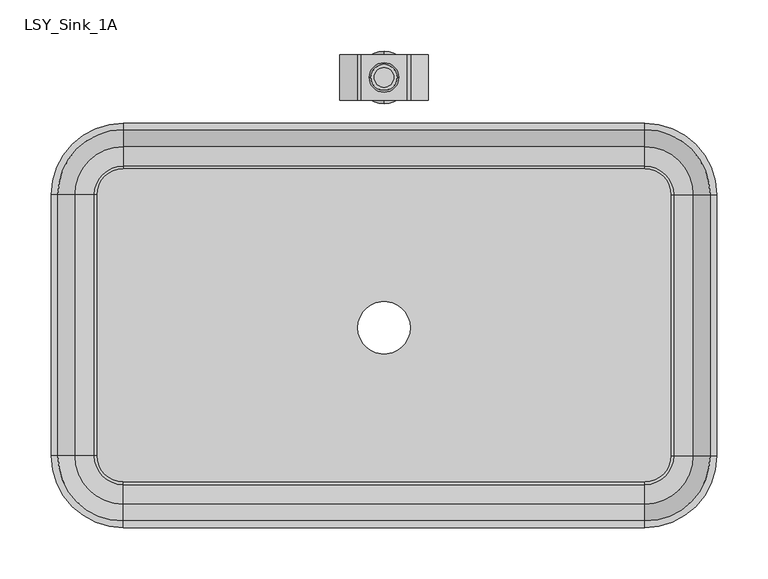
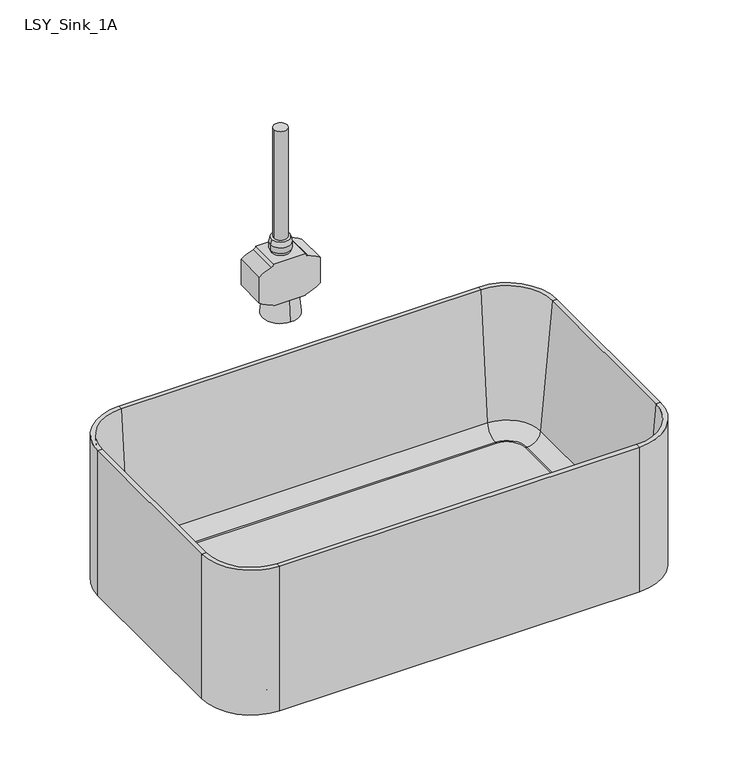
"""IFC4 building model written with IfcOpenShell, lengths in millimetres: flow terminal geometry."""

from ifc_helpers import new_model, si_unit, point, frame, frame_2d, origin, place, context, project, spatial, polyline, circle_curve, ellipse_curve, trimmed, segment, composite_curve, outline, extrude, source, transform, mapped, element, save
from ifc_brep_helpers import plane_surface, cylinder_surface, revolved_surface, advanced_brep


def lsy_sink_1a_065a4558(model_context):
    return source(origin(), model_context, "Body", "SolidModel", [
        advanced_brep(
        [(29.9767406, 145.2204011, 1036.6375), (1.4017406, 145.2204011, 1036.6375), (1.4017406, 145.2204011, 1044.575), (29.9767406, 145.2204011, 1044.575), (28.3892406, 145.2204011, 1052.5125), (2.9892406, 145.2204011, 1052.5125)],
        [
            (0, 1, circle_curve(frame((15.6892406, 145.2204011, 1036.6375), z_axis=(0.0, 0.0, -1.0), x_axis=(-1.0, 0.0, 0.0)), 14.2875)),
            (1, 0, circle_curve(frame((15.6892406, 145.2204011, 1036.6375), z_axis=(0.0, 0.0, -1.0), x_axis=(-1.0, 0.0, 0.0)), 14.2875)),
            (1, 2),
            (2, 3, circle_curve(frame((15.6892406, 145.2204011, 1044.575), z_axis=(0.0, 0.0, -1.0), x_axis=(-1.0, 0.0, 0.0)), 14.2875)),
            (3, 0),
            (3, 2, circle_curve(frame((15.6892406, 145.2204011, 1044.575), z_axis=(0.0, 0.0, -1.0), x_axis=(-1.0, 0.0, 0.0)), 14.2875)),
            (4, 5, circle_curve(frame((15.6892406, 145.2204011, 1052.5125), z_axis=(0.0, 0.0, 1.0), x_axis=(1.0, 0.0, 0.0)), 12.7)),
            (5, 4, circle_curve(frame((15.6892406, 145.2204011, 1052.5125), z_axis=(0.0, 0.0, 1.0), x_axis=(-1.0, 0.0, 0.0)), 12.7)),
            (4, 3),
            (2, 5),
        ],
        [
            plane_surface(frame((1.4017406, 145.2204011, 1036.6375), z_axis=(0.0, 0.0, -1.0), x_axis=(0.0, 1.0, 0.0))),
            cylinder_surface(frame((15.6892406, 145.2204011, 1036.6375), z_axis=(0.0, 0.0, 1.0), x_axis=(-1.0, 0.0, 0.0)), 14.2875),
            plane_surface(frame((15.6892406, 145.2204011, 1052.5125), z_axis=(0.0, 0.0, 1.0), x_axis=(0.0, 1.0, 0.0))),
            revolved_surface(polyline([(28.3892406, 145.2204011, 1052.5125), (29.9767406, 145.2204011, 1044.575)]), (15.6892406, 145.2204011, 1116.0125), (0.0, 0.0, -1.0)),
            revolved_surface(polyline([(2.9892406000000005, 145.2204011, 1052.5125), (1.4017406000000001, 145.2204011, 1044.575)]), (15.6892406, 145.2204011, 1116.0125), (0.0, 0.0, -1.0)),
        ],
        [
            (0, [[1, 2]]),
            (1, [[-2, 3, 4, 5]]),
            (1, [[-1, -5, 6, -3]]),
            (2, [[7, 8]]),
            (3, [[-7, 9, -4, 10]]),
            (4, [[-8, -10, -6, -9]]),
        ],
    ),
        extrude(outline(composite_curve([segment(trimmed(circle_curve(frame_2d((1032.4850081, -11.5210533)), 5.0159468), [point((1031.875, -6.5423374))], [point((1027.6006878, -10.3795029))], True, "CARTESIAN"), True, "CONTINUOUS"), segment(trimmed(circle_curve(frame_2d((988.3820284, -1.2134213)), 40.2755546), [point((1027.6006878, -10.3795029))], [point((1019.175, -27.1732594))], False, "CARTESIAN"), True, "CONTINUOUS"), segment(polyline([(1019.175, -27.1732594), (981.075, -27.1732594)]), True, "CONTINUOUS"), segment(trimmed(circle_curve(frame_2d((1011.8679716, -1.2134213)), 40.2755546), [point((981.075, -27.1732594))], [point((972.6493122, -10.3795029))], False, "CARTESIAN"), True, "CONTINUOUS"), segment(trimmed(circle_curve(frame_2d((966.5200388, -11.8120204)), 6.2944498), [point((972.6493122, -10.3795029))], [point((969.9625, -6.5423374))], True, "CARTESIAN"), True, "CONTINUOUS"), segment(polyline([(969.9625, -6.5423374), (969.9625, 37.9208185)]), True, "CONTINUOUS"), segment(trimmed(circle_curve(frame_2d((966.5200388, 43.1905016)), 6.2944498), [point((969.9625, 37.9208185))], [point((972.6493122, 41.757984))], True, "CARTESIAN"), True, "CONTINUOUS"), segment(trimmed(circle_curve(frame_2d((1011.8679716, 32.5919024)), 40.2755546), [point((972.6493122, 41.757984))], [point((981.075, 58.5517406))], False, "CARTESIAN"), True, "CONTINUOUS"), segment(polyline([(981.075, 58.5517406), (1019.175, 58.5517406)]), True, "CONTINUOUS"), segment(trimmed(circle_curve(frame_2d((988.3820284, 32.5919024)), 40.2755546), [point((1019.175, 58.5517406))], [point((1027.6006878, 41.757984))], False, "CARTESIAN"), True, "CONTINUOUS"), segment(trimmed(circle_curve(frame_2d((1032.4850081, 42.8995344)), 5.0159468), [point((1027.6006878, 41.757984))], [point((1031.875, 37.9208185))], True, "CARTESIAN"), True, "CONTINUOUS"), segment(polyline([(1031.875, 37.9208185), (1031.875, -6.5423374)]), True, "CONTINUOUS")], self_intersect=False)), frame((0.0, 123.025388, 0.0), z_axis=(0.0, 1.0, 0.0), x_axis=(0.0, 0.0, 1.0)), (0.0, 0.0, 1.0), 44.3900263),
        advanced_brep(
        [(15.6892406, 122.9654143, 969.9625), (15.6892406, 167.4154143, 969.9625), (15.6892406, 119.7904143, 939.8), (15.6892406, 170.5904143, 939.8)],
        [
            (0, 1, circle_curve(frame((15.6892406, 145.1904143, 969.9625), z_axis=(0.0, 0.0, 1.0), x_axis=(0.0, -1.0, 0.0)), 22.225)),
            (1, 0, circle_curve(frame((15.6892406, 145.1904143, 969.9625), z_axis=(0.0, 0.0, 1.0), x_axis=(0.0, 1.0, 0.0)), 22.225)),
            (2, 3, circle_curve(frame((15.6892406, 145.1904143, 939.8), z_axis=(0.0, 0.0, -1.0), x_axis=(0.0, 1.0, 0.0)), 25.4)),
            (3, 2, circle_curve(frame((15.6892406, 145.1904143, 939.8), z_axis=(0.0, 0.0, -1.0), x_axis=(0.0, -1.0, 0.0)), 25.4)),
            (3, 1),
            (0, 2),
        ],
        [
            plane_surface(frame((15.6892406, 145.1904143, 969.9625), z_axis=(0.0, 0.0, 1.0), x_axis=(1.0, 0.0, 0.0))),
            plane_surface(frame((15.6892406, 145.1904143, 939.8), z_axis=(0.0, 0.0, -1.0), x_axis=(1.0, 0.0, 0.0))),
            revolved_surface(polyline([(15.6892406, 122.96541429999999, 969.9625), (15.6892406, 119.7904143, 939.8)]), (15.6892406, 145.1904143, 1181.1), (0.0, 0.0, -1.0)),
            revolved_surface(polyline([(15.6892406, 167.41541429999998, 969.9625), (15.6892406, 170.5904143, 939.8)]), (15.6892406, 145.1904143, 1181.1), (0.0, 0.0, -1.0)),
        ],
        [
            (0, [[1, 2]]),
            (1, [[3, 4]]),
            (2, [[-4, 5, -1, 6]]),
            (3, [[-3, -6, -2, -5]]),
        ],
    ),
        extrude(outline(composite_curve([segment(trimmed(circle_curve(frame_2d((15.6892406, 145.2204011)), 12.7), [point((28.3892406, 145.2204011))], [point((2.9892406, 145.2204011))], False, "CARTESIAN"), True, "CONTINUOUS"), segment(trimmed(circle_curve(frame_2d((15.6892406, 145.2204011)), 12.7), [point((2.9892406, 145.2204011))], [point((28.3892406, 145.2204011))], False, "CARTESIAN"), True, "CONTINUOUS")], self_intersect=False)), frame((0.0, 0.0, 1031.875), z_axis=(0.0, 0.0, 1.0), x_axis=(1.0, 0.0, 0.0)), (0.0, 0.0, 1.0), 4.7625),
        extrude(outline(composite_curve([segment(trimmed(circle_curve(frame_2d((15.6892406, 145.2204011)), 9.525), [point((25.2142406, 145.2204011))], [point((6.1642406, 145.2204011))], False, "CARTESIAN"), True, "CONTINUOUS"), segment(trimmed(circle_curve(frame_2d((15.6892406, 145.2204011)), 9.525), [point((6.1642406, 145.2204011))], [point((25.2142406, 145.2204011))], False, "CARTESIAN"), True, "CONTINUOUS")], self_intersect=False)), frame((0.0, 0.0, 1052.5125), z_axis=(0.0, 0.0, 1.0), x_axis=(1.0, 0.0, 0.0)), (0.0, 0.0, 1.0), 162.7114243),
        extrude(outline(composite_curve([segment(trimmed(circle_curve(frame_2d((269.6892406, 30.9204011)), 25.4), [point((269.6892406, 56.3204011))], [point((295.0892406, 30.9204011))], False, "CARTESIAN"), True, "CONTINUOUS"), segment(polyline([(295.0892406, 30.9204011), (295.0892406, -223.0795989)]), True, "CONTINUOUS"), segment(trimmed(circle_curve(frame_2d((269.6892406, -223.0795989)), 25.4), [point((295.0892406, -223.0795989))], [point((269.6892406, -248.4795989))], False, "CARTESIAN"), True, "CONTINUOUS"), segment(polyline([(269.6892406, -248.4795989), (-238.3107594, -248.4795989)]), True, "CONTINUOUS"), segment(trimmed(circle_curve(frame_2d((-238.3107594, -223.0795989)), 25.4), [point((-238.3107594, -248.4795989))], [point((-263.7107594, -223.0795989))], False, "CARTESIAN"), True, "CONTINUOUS"), segment(polyline([(-263.7107594, -223.0795989), (-263.7107594, 30.9204011)]), True, "CONTINUOUS"), segment(trimmed(circle_curve(frame_2d((-238.3107594, 30.9204011)), 25.4), [point((-263.7107594, 30.9204011))], [point((-238.3107594, 56.3204011))], False, "CARTESIAN"), True, "CONTINUOUS"), segment(polyline([(-238.3107594, 56.3204011), (269.6892406, 56.3204011)]), True, "CONTINUOUS")], self_intersect=False), holes=[composite_curve([segment(trimmed(circle_curve(frame_2d((15.6892406, -98.425)), 25.4), [point((-9.7107594, -98.425))], [point((41.0892406, -98.425))], True, "CARTESIAN"), True, "CONTINUOUS"), segment(trimmed(circle_curve(frame_2d((15.6892406, -98.425)), 25.4), [point((41.0892406, -98.425))], [point((-9.7107594, -98.425))], True, "CARTESIAN"), True, "CONTINUOUS")], self_intersect=False)]), frame((0.0, 0.0, 698.5), z_axis=(0.0, 0.0, 1.0), x_axis=(1.0, 0.0, 0.0)), (0.0, 0.0, 1.0), 9.525),
        advanced_brep(
        [(339.5392406, 30.9204011, 698.5), (269.6892406, 100.7704011, 698.5), (269.6892406, 100.7704011, 914.4), (339.5392406, 30.9204011, 914.4), (295.0892406, 30.9204011, 698.5), (269.6892406, 56.3204011, 698.5), (295.0892406, 30.9204011, 708.025), (269.6892406, 56.3204011, 708.025), (297.6776588, 30.9204011, 708.025), (269.6892406, 58.9088193, 708.025), (316.6551678, 30.9204011, 725.4146831), (269.6892406, 77.8863283, 725.4146831), (333.1892406, 30.9204011, 914.4), (269.6892406, 94.4204011, 914.4), (339.5392406, -223.0795989, 914.4), (339.5392406, -223.0795989, 698.5), (295.0892406, -223.0795989, 698.5), (295.0892406, -223.0795989, 708.025), (297.6776588, -223.0795989, 708.025), (316.6551678, -223.0795989, 725.4146831), (333.1892406, -223.0795989, 914.4), (269.6892406, -292.9295989, 698.5), (269.6892406, -292.9295989, 914.4), (269.6892406, -248.4795989, 698.5), (269.6892406, -248.4795989, 708.025), (269.6892406, -251.0680171, 708.025), (269.6892406, -270.0455261, 725.4146831), (269.6892406, -286.5795989, 914.4), (-238.3107594, -292.9295989, 914.4), (-238.3107594, -292.9295989, 698.5), (-238.3107594, -248.4795989, 698.5), (-238.3107594, -248.4795989, 708.025), (-238.3107594, -251.0680171, 708.025), (-238.3107594, -270.0455261, 725.4146831), (-238.3107594, -286.5795989, 914.4), (-308.1607594, -223.0795989, 698.5), (-308.1607594, -223.0795989, 914.4), (-263.7107594, -223.0795989, 698.5), (-263.7107594, -223.0795989, 708.025), (-266.2991776, -223.0795989, 708.025), (-285.2766866, -223.0795989, 725.4146831), (-301.8107594, -223.0795989, 914.4), (-308.1607594, 30.9204011, 914.4), (-308.1607594, 30.9204011, 698.5), (-263.7107594, 30.9204011, 698.5), (-263.7107594, 30.9204011, 708.025), (-266.2991776, 30.9204011, 708.025), (-285.2766866, 30.9204011, 725.4146831), (-301.8107594, 30.9204011, 914.4), (-238.3107594, 100.7704011, 698.5), (-238.3107594, 100.7704011, 914.4), (-238.3107594, 56.3204011, 698.5), (-238.3107594, 56.3204011, 708.025), (-238.3107594, 58.9088193, 708.025), (-238.3107594, 77.8863283, 725.4146831), (-238.3107594, 94.4204011, 914.4)],
        [
            (0, 1, circle_curve(frame((269.6892406, 30.9204011, 698.5), z_axis=(0.0, 0.0, 1.0), x_axis=(0.0, 1.0, 0.0)), 69.85)),
            (1, 2),
            (2, 3, circle_curve(frame((269.6892406, 30.9204011, 914.4), z_axis=(0.0, 0.0, -1.0), x_axis=(0.0, 1.0, 0.0)), 69.85)),
            (3, 0),
            (4, 5, circle_curve(frame((269.6892406, 30.9204011, 698.5), z_axis=(0.0, 0.0, 1.0), x_axis=(0.0, 1.0, 0.0)), 25.4)),
            (5, 1),
            (0, 4),
            (6, 7, circle_curve(frame((269.6892406, 30.9204011, 708.025), z_axis=(0.0, 0.0, 1.0), x_axis=(0.0, 1.0, 0.0)), 25.4)),
            (7, 5),
            (4, 6),
            (8, 9, circle_curve(frame((269.6892406, 30.9204011, 708.025), z_axis=(0.0, 0.0, 1.0), x_axis=(0.0, 1.0, 0.0)), 27.9884182)),
            (9, 7),
            (6, 8),
            (10, 11, circle_curve(frame((269.6892406, 30.9204011, 725.4146831), z_axis=(0.0, 0.0, 1.0), x_axis=(0.0, 1.0, 0.0)), 46.9659272)),
            (11, 9, circle_curve(frame((269.6892406, 58.9088193, 727.075), z_axis=(-1.0, 0.0, 0.0), x_axis=(0.0, 1.0, 0.0)), 19.05)),
            (8, 10, circle_curve(frame((297.6776588, 30.9204011, 727.075), z_axis=(0.0, -1.0, 0.0), x_axis=(1.0, 0.0, 0.0)), 19.05)),
            (12, 13, circle_curve(frame((269.6892406, 30.9204011, 914.4), z_axis=(0.0, 0.0, 1.0), x_axis=(0.0, 1.0, 0.0)), 63.5)),
            (13, 11),
            (10, 12),
            (2, 13),
            (12, 3),
            (3, 14),
            (14, 15),
            (15, 0),
            (15, 16),
            (16, 4),
            (16, 17),
            (17, 6),
            (17, 18),
            (18, 8),
            (18, 19, circle_curve(frame((297.6776588, -223.0795989, 727.075), z_axis=(0.0, -1.0, 0.0), x_axis=(1.0, 0.0, 0.0)), 19.05)),
            (19, 10),
            (19, 20),
            (20, 12),
            (20, 14),
            (21, 15, circle_curve(frame((269.6892406, -223.0795989, 698.5), z_axis=(0.0, 0.0, 1.0), x_axis=(1.0, 0.0, 0.0)), 69.85)),
            (14, 22, circle_curve(frame((269.6892406, -223.0795989, 914.4), z_axis=(0.0, 0.0, -1.0), x_axis=(1.0, 0.0, 0.0)), 69.85)),
            (22, 21),
            (23, 16, circle_curve(frame((269.6892406, -223.0795989, 698.5), z_axis=(0.0, 0.0, 1.0), x_axis=(1.0, 0.0, 0.0)), 25.4)),
            (21, 23),
            (24, 17, circle_curve(frame((269.6892406, -223.0795989, 708.025), z_axis=(0.0, 0.0, 1.0), x_axis=(1.0, 0.0, 0.0)), 25.4)),
            (23, 24),
            (25, 18, circle_curve(frame((269.6892406, -223.0795989, 708.025), z_axis=(0.0, 0.0, 1.0), x_axis=(1.0, 0.0, 0.0)), 27.9884182)),
            (24, 25),
            (26, 19, circle_curve(frame((269.6892406, -223.0795989, 725.4146831), z_axis=(0.0, 0.0, 1.0), x_axis=(1.0, 0.0, 0.0)), 46.9659272)),
            (25, 26, circle_curve(frame((269.6892406, -251.0680171, 727.075), z_axis=(-1.0, 0.0, 0.0), x_axis=(0.0, -1.0, 0.0)), 19.05)),
            (27, 20, circle_curve(frame((269.6892406, -223.0795989, 914.4), z_axis=(0.0, 0.0, 1.0), x_axis=(1.0, 0.0, 0.0)), 63.5)),
            (26, 27),
            (27, 22),
            (22, 28),
            (28, 29),
            (29, 21),
            (29, 30),
            (30, 23),
            (30, 31),
            (31, 24),
            (31, 32),
            (32, 25),
            (32, 33, circle_curve(frame((-238.3107594, -251.0680171, 727.075), z_axis=(-1.0, 0.0, 0.0), x_axis=(0.0, -1.0, 0.0)), 19.05)),
            (33, 26),
            (33, 34),
            (34, 27),
            (34, 28),
            (35, 29, circle_curve(frame((-238.3107594, -223.0795989, 698.5), z_axis=(0.0, 0.0, 1.0), x_axis=(0.0, -1.0, 0.0)), 69.85)),
            (28, 36, circle_curve(frame((-238.3107594, -223.0795989, 914.4), z_axis=(0.0, 0.0, -1.0), x_axis=(0.0, -1.0, 0.0)), 69.85)),
            (36, 35),
            (37, 30, circle_curve(frame((-238.3107594, -223.0795989, 698.5), z_axis=(0.0, 0.0, 1.0), x_axis=(0.0, -1.0, 0.0)), 25.4)),
            (35, 37),
            (38, 31, circle_curve(frame((-238.3107594, -223.0795989, 708.025), z_axis=(0.0, 0.0, 1.0), x_axis=(0.0, -1.0, 0.0)), 25.4)),
            (37, 38),
            (39, 32, circle_curve(frame((-238.3107594, -223.0795989, 708.025), z_axis=(0.0, 0.0, 1.0), x_axis=(0.0, -1.0, 0.0)), 27.9884182)),
            (38, 39),
            (40, 33, circle_curve(frame((-238.3107594, -223.0795989, 725.4146831), z_axis=(0.0, 0.0, 1.0), x_axis=(0.0, -1.0, 0.0)), 46.9659272)),
            (39, 40, circle_curve(frame((-266.2991776, -223.0795989, 727.075), z_axis=(0.0, 1.0, 0.0), x_axis=(-1.0, 0.0, 0.0)), 19.05)),
            (41, 34, circle_curve(frame((-238.3107594, -223.0795989, 914.4), z_axis=(0.0, 0.0, 1.0), x_axis=(0.0, -1.0, 0.0)), 63.5)),
            (40, 41),
            (41, 36),
            (36, 42),
            (42, 43),
            (43, 35),
            (43, 44),
            (44, 37),
            (44, 45),
            (45, 38),
            (45, 46),
            (46, 39),
            (46, 47, circle_curve(frame((-266.2991776, 30.9204011, 727.075), z_axis=(0.0, 1.0, 0.0), x_axis=(-1.0, 0.0, 0.0)), 19.05)),
            (47, 40),
            (47, 48),
            (48, 41),
            (48, 42),
            (49, 43, circle_curve(frame((-238.3107594, 30.9204011, 698.5), z_axis=(0.0, 0.0, 1.0), x_axis=(-1.0, 0.0, 0.0)), 69.85)),
            (42, 50, circle_curve(frame((-238.3107594, 30.9204011, 914.4), z_axis=(0.0, 0.0, -1.0), x_axis=(-1.0, 0.0, 0.0)), 69.85)),
            (50, 49),
            (51, 44, circle_curve(frame((-238.3107594, 30.9204011, 698.5), z_axis=(0.0, 0.0, 1.0), x_axis=(-1.0, 0.0, 0.0)), 25.4)),
            (49, 51),
            (52, 45, circle_curve(frame((-238.3107594, 30.9204011, 708.025), z_axis=(0.0, 0.0, 1.0), x_axis=(-1.0, 0.0, 0.0)), 25.4)),
            (51, 52),
            (53, 46, circle_curve(frame((-238.3107594, 30.9204011, 708.025), z_axis=(0.0, 0.0, 1.0), x_axis=(-1.0, 0.0, 0.0)), 27.9884182)),
            (52, 53),
            (54, 47, circle_curve(frame((-238.3107594, 30.9204011, 725.4146831), z_axis=(0.0, 0.0, 1.0), x_axis=(-1.0, 0.0, 0.0)), 46.9659272)),
            (53, 54, circle_curve(frame((-238.3107594, 58.9088193, 727.075), z_axis=(1.0, 0.0, 0.0), x_axis=(0.0, 1.0, 0.0)), 19.05)),
            (55, 48, circle_curve(frame((-238.3107594, 30.9204011, 914.4), z_axis=(0.0, 0.0, 1.0), x_axis=(-1.0, 0.0, 0.0)), 63.5)),
            (54, 55),
            (55, 50),
            (50, 2),
            (1, 49),
            (5, 51),
            (7, 52),
            (9, 53),
            (11, 54),
            (13, 55),
        ],
        [
            cylinder_surface(frame((269.6892406, 30.9204011, 0.0), z_axis=(0.0, 0.0, -1.0), x_axis=(0.0, 1.0, 0.0)), 69.85),
            plane_surface(frame((269.6892406, 30.9204011, 698.5), z_axis=(0.0, 0.0, -1.0), x_axis=(0.0, 1.0, 0.0))),
            revolved_surface(polyline([(269.6892406, 56.3204011, 698.5), (269.6892406, 56.3204011, 708.025)]), (269.6892406, 30.9204011, 0.0), (0.0, 0.0, -1.0)),
            plane_surface(frame((269.6892406, 30.9204011, 708.025), z_axis=(0.0, 0.0, 1.0), x_axis=(0.0, 1.0, 0.0))),
            revolved_surface(trimmed(ellipse_curve(frame((269.6892406, 58.9088193, 727.075), z_axis=(1.0, 0.0, 0.0), x_axis=(0.0, 1.0, 0.0)), 19.05, 19.05), [point((269.6892406, 58.9088193, 708.025))], [point((269.6892406, 77.8863283, 725.4146831))], True, "CARTESIAN"), (269.6892406, 30.9204011, 0.0), (0.0, 0.0, -1.0)),
            revolved_surface(polyline([(269.6892406, 77.8863283, 725.4146831), (269.6892406, 94.4204011, 914.4)]), (269.6892406, 30.9204011, 0.0), (0.0, 0.0, -1.0)),
            plane_surface(frame((269.6892406, 30.9204011, 914.4), z_axis=(0.0, 0.0, 1.0), x_axis=(0.0, 1.0, 0.0))),
            plane_surface(frame((339.5392406, 30.9204011, 914.4), z_axis=(1.0, 0.0, 0.0), x_axis=(0.0, -1.0, 0.0))),
            plane_surface(frame((339.5392406, 30.9204011, 698.5), z_axis=(0.0, 0.0, -1.0), x_axis=(0.0, -1.0, 0.0))),
            plane_surface(frame((295.0892406, 30.9204011, 698.5), z_axis=(-1.0, 0.0, 0.0), x_axis=(0.0, -1.0, 0.0))),
            plane_surface(frame((295.0892406, 30.9204011, 708.025), z_axis=(0.0, 0.0, 1.0), x_axis=(0.0, -1.0, 0.0))),
            revolved_surface(polyline([(316.72765880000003, -223.0795989, 727.075), (316.72765880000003, 30.9204011, 727.075)]), (297.6776588, 30.9204011, 727.075), (0.0, -1.0, 0.0)),
            plane_surface(frame((316.6551678, 30.9204011, 725.4146831), z_axis=(-0.9961946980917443, 0.0, 0.08715574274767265), x_axis=(0.0, -1.0, 0.0))),
            plane_surface(frame((333.1892406, 30.9204011, 914.4), z_axis=(0.0, 0.0, 1.0), x_axis=(0.0, -1.0, 0.0))),
            cylinder_surface(frame((269.6892406, -223.0795989, 0.0), z_axis=(0.0, 0.0, -1.0), x_axis=(1.0, 0.0, 0.0)), 69.85),
            plane_surface(frame((269.6892406, -223.0795989, 698.5), z_axis=(0.0, 0.0, -1.0), x_axis=(1.0, 0.0, 0.0))),
            revolved_surface(polyline([(295.0892406, -223.0795989, 698.5), (295.0892406, -223.0795989, 708.025)]), (269.6892406, -223.0795989, 0.0), (0.0, 0.0, -1.0)),
            plane_surface(frame((269.6892406, -223.0795989, 708.025), z_axis=(0.0, 0.0, 1.0), x_axis=(1.0, 0.0, 0.0))),
            revolved_surface(trimmed(ellipse_curve(frame((297.6776588, -223.0795989, 727.075), z_axis=(0.0, -1.0, 0.0), x_axis=(1.0, 0.0, 0.0)), 19.05, 19.05), [point((297.6776588, -223.0795989, 708.025))], [point((316.6551678, -223.0795989, 725.4146831))], True, "CARTESIAN"), (269.6892406, -223.0795989, 0.0), (0.0, 0.0, -1.0)),
            revolved_surface(polyline([(316.6551678, -223.0795989, 725.4146831), (333.1892406, -223.0795989, 914.4)]), (269.6892406, -223.0795989, 0.0), (0.0, 0.0, -1.0)),
            plane_surface(frame((269.6892406, -223.0795989, 914.4), z_axis=(0.0, 0.0, 1.0), x_axis=(1.0, 0.0, 0.0))),
            plane_surface(frame((269.6892406, -292.9295989, 914.4), z_axis=(0.0, -1.0, 0.0), x_axis=(-1.0, 0.0, 0.0))),
            plane_surface(frame((269.6892406, -292.9295989, 698.5), z_axis=(0.0, 0.0, -1.0), x_axis=(-1.0, 0.0, 0.0))),
            plane_surface(frame((269.6892406, -248.4795989, 698.5), z_axis=(0.0, 1.0, 0.0), x_axis=(-1.0, 0.0, 0.0))),
            plane_surface(frame((269.6892406, -248.4795989, 708.025), z_axis=(0.0, 0.0, 1.0), x_axis=(-1.0, 0.0, 0.0))),
            revolved_surface(polyline([(-238.3107594, -270.1180171, 727.075), (269.6892406, -270.1180171, 727.075)]), (269.6892406, -251.0680171, 727.075), (-1.0, 0.0, 0.0)),
            plane_surface(frame((269.6892406, -270.0455261, 725.4146831), z_axis=(0.0, 0.9961946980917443, 0.08715574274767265), x_axis=(-1.0, 0.0, 0.0))),
            plane_surface(frame((269.6892406, -286.5795989, 914.4), z_axis=(0.0, 0.0, 1.0), x_axis=(-1.0, 0.0, 0.0))),
            cylinder_surface(frame((-238.3107594, -223.0795989, 0.0), z_axis=(0.0, 0.0, -1.0), x_axis=(0.0, -1.0, 0.0)), 69.85),
            plane_surface(frame((-238.3107594, -223.0795989, 698.5), z_axis=(0.0, 0.0, -1.0), x_axis=(0.0, -1.0, 0.0))),
            revolved_surface(polyline([(-238.3107594, -248.4795989, 698.5), (-238.3107594, -248.4795989, 708.025)]), (-238.3107594, -223.0795989, 0.0), (0.0, 0.0, -1.0)),
            plane_surface(frame((-238.3107594, -223.0795989, 708.025), z_axis=(0.0, 0.0, 1.0), x_axis=(0.0, -1.0, 0.0))),
            revolved_surface(trimmed(ellipse_curve(frame((-238.3107594, -251.0680171, 727.075), z_axis=(-1.0, 0.0, 0.0), x_axis=(0.0, -1.0, 0.0)), 19.05, 19.05), [point((-238.3107594, -251.0680171, 708.025))], [point((-238.3107594, -270.0455261, 725.4146831))], True, "CARTESIAN"), (-238.3107594, -223.0795989, 0.0), (0.0, 0.0, -1.0)),
            revolved_surface(polyline([(-238.3107594, -270.0455261, 725.4146831), (-238.3107594, -286.5795989, 914.4)]), (-238.3107594, -223.0795989, 0.0), (0.0, 0.0, -1.0)),
            plane_surface(frame((-238.3107594, -223.0795989, 914.4), z_axis=(0.0, 0.0, 1.0), x_axis=(0.0, -1.0, 0.0))),
            plane_surface(frame((-308.1607594, -223.0795989, 914.4), z_axis=(-1.0, 0.0, 0.0), x_axis=(0.0, 1.0, 0.0))),
            plane_surface(frame((-308.1607594, -223.0795989, 698.5), z_axis=(0.0, 0.0, -1.0), x_axis=(0.0, 1.0, 0.0))),
            plane_surface(frame((-263.7107594, -223.0795989, 698.5), z_axis=(1.0, 0.0, 0.0), x_axis=(0.0, 1.0, 0.0))),
            plane_surface(frame((-263.7107594, -223.0795989, 708.025), z_axis=(0.0, 0.0, 1.0), x_axis=(0.0, 1.0, 0.0))),
            revolved_surface(polyline([(-285.3491776, 30.920401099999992, 727.075), (-285.3491776, -223.0795989, 727.075)]), (-266.2991776, -223.0795989, 727.075), (0.0, 1.0, 0.0)),
            plane_surface(frame((-285.2766866, -223.0795989, 725.4146831), z_axis=(0.9961946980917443, 0.0, 0.08715574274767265), x_axis=(0.0, 1.0, 0.0))),
            plane_surface(frame((-301.8107594, -223.0795989, 914.4), z_axis=(0.0, 0.0, 1.0), x_axis=(0.0, 1.0, 0.0))),
            cylinder_surface(frame((-238.3107594, 30.9204011, 0.0), z_axis=(0.0, 0.0, -1.0), x_axis=(-1.0, 0.0, 0.0)), 69.85),
            plane_surface(frame((-238.3107594, 30.9204011, 698.5), z_axis=(0.0, 0.0, -1.0), x_axis=(-1.0, 0.0, 0.0))),
            revolved_surface(polyline([(-263.7107594, 30.9204011, 698.5), (-263.7107594, 30.9204011, 708.025)]), (-238.3107594, 30.9204011, 0.0), (0.0, 0.0, -1.0)),
            plane_surface(frame((-238.3107594, 30.9204011, 708.025), z_axis=(0.0, 0.0, 1.0), x_axis=(-1.0, 0.0, 0.0))),
            revolved_surface(trimmed(ellipse_curve(frame((-266.2991776, 30.9204011, 727.075), z_axis=(0.0, 1.0, 0.0), x_axis=(-1.0, 0.0, 0.0)), 19.05, 19.05), [point((-266.2991776, 30.9204011, 708.025))], [point((-285.2766866, 30.9204011, 725.4146831))], True, "CARTESIAN"), (-238.3107594, 30.9204011, 0.0), (0.0, 0.0, -1.0)),
            revolved_surface(polyline([(-285.2766866, 30.9204011, 725.4146831), (-301.8107594, 30.9204011, 914.4)]), (-238.3107594, 30.9204011, 0.0), (0.0, 0.0, -1.0)),
            plane_surface(frame((-238.3107594, 30.9204011, 914.4), z_axis=(0.0, 0.0, 1.0), x_axis=(-1.0, 0.0, 0.0))),
            plane_surface(frame((-238.3107594, 100.7704011, 914.4), z_axis=(0.0, 1.0, 0.0), x_axis=(1.0, 0.0, 0.0))),
            plane_surface(frame((-238.3107594, 100.7704011, 698.5), z_axis=(0.0, 0.0, -1.0), x_axis=(1.0, 0.0, 0.0))),
            plane_surface(frame((-238.3107594, 56.3204011, 698.5), z_axis=(0.0, -1.0, 0.0), x_axis=(1.0, 0.0, 0.0))),
            plane_surface(frame((-238.3107594, 56.3204011, 708.025), z_axis=(0.0, 0.0, 1.0), x_axis=(1.0, 0.0, 0.0))),
            revolved_surface(polyline([(269.6892406, 77.9588193, 727.075), (-238.3107594, 77.9588193, 727.075)]), (-238.3107594, 58.9088193, 727.075), (1.0, 0.0, 0.0)),
            plane_surface(frame((-238.3107594, 77.8863283, 725.4146831), z_axis=(0.0, -0.9961946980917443, 0.08715574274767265), x_axis=(1.0, 0.0, 0.0))),
            plane_surface(frame((-238.3107594, 94.4204011, 914.4), z_axis=(0.0, 0.0, 1.0), x_axis=(1.0, 0.0, 0.0))),
        ],
        [
            (0, [[1, 2, 3, 4]]),
            (1, [[5, 6, -1, 7]]),
            (2, [[8, 9, -5, 10]]),
            (3, [[11, 12, -8, 13]]),
            (4, [[14, 15, -11, 16]]),
            (5, [[17, 18, -14, 19]]),
            (6, [[-3, 20, -17, 21]]),
            (7, [[-4, 22, 23, 24]]),
            (8, [[-7, -24, 25, 26]]),
            (9, [[-10, -26, 27, 28]]),
            (10, [[-13, -28, 29, 30]]),
            (11, [[-16, -30, 31, 32]]),
            (12, [[-19, -32, 33, 34]]),
            (13, [[-21, -34, 35, -22]]),
            (14, [[36, -23, 37, 38]]),
            (15, [[39, -25, -36, 40]]),
            (16, [[41, -27, -39, 42]]),
            (17, [[43, -29, -41, 44]]),
            (18, [[45, -31, -43, 46]]),
            (19, [[47, -33, -45, 48]]),
            (20, [[-37, -35, -47, 49]]),
            (21, [[-38, 50, 51, 52]]),
            (22, [[-40, -52, 53, 54]]),
            (23, [[-42, -54, 55, 56]]),
            (24, [[-44, -56, 57, 58]]),
            (25, [[-46, -58, 59, 60]]),
            (26, [[-48, -60, 61, 62]]),
            (27, [[-49, -62, 63, -50]]),
            (28, [[64, -51, 65, 66]]),
            (29, [[67, -53, -64, 68]]),
            (30, [[69, -55, -67, 70]]),
            (31, [[71, -57, -69, 72]]),
            (32, [[73, -59, -71, 74]]),
            (33, [[75, -61, -73, 76]]),
            (34, [[-65, -63, -75, 77]]),
            (35, [[-66, 78, 79, 80]]),
            (36, [[-68, -80, 81, 82]]),
            (37, [[-70, -82, 83, 84]]),
            (38, [[-72, -84, 85, 86]]),
            (39, [[-74, -86, 87, 88]]),
            (40, [[-76, -88, 89, 90]]),
            (41, [[-77, -90, 91, -78]]),
            (42, [[92, -79, 93, 94]]),
            (43, [[95, -81, -92, 96]]),
            (44, [[97, -83, -95, 98]]),
            (45, [[99, -85, -97, 100]]),
            (46, [[101, -87, -99, 102]]),
            (47, [[103, -89, -101, 104]]),
            (48, [[-93, -91, -103, 105]]),
            (49, [[-94, 106, -2, 107]]),
            (50, [[-96, -107, -6, 108]]),
            (51, [[-98, -108, -9, 109]]),
            (52, [[-100, -109, -12, 110]]),
            (53, [[-102, -110, -15, 111]]),
            (54, [[-104, -111, -18, 112]]),
            (55, [[-105, -112, -20, -106]]),
        ],
    ),
    ])


if __name__ == "__main__":
    model = new_model("IFC4")
    model_context = context("Model", 3, world=origin())
    ifc_project = project(units=[si_unit("LENGTHUNIT", "METRE", prefix="MILLI")], contexts=[model_context])
    site = spatial("IfcSite", under=ifc_project)
    building = spatial("IfcBuilding", under=site)
    placement = place(None, origin())
    lsy_sink_1a_shape = lsy_sink_1a_065a4558(model_context)
    element("IfcFlowTerminal", 1, ObjectType="LSY_Sink_1A : 25\"W x 15\"D", at=placement, inside=building, context=model_context, shape_type="MappedRepresentation", body=[
        mapped(lsy_sink_1a_shape, transform((0.0, 0.0, 0.0), x_axis=(1.0, 0.0, 0.0), y_axis=(0.0, 1.0, 0.0), z_axis=(0.0, 0.0, 1.0))),
    ])
    save(model, "model.ifc")
